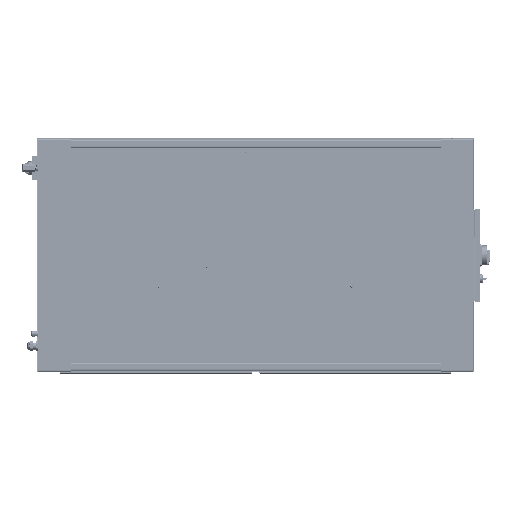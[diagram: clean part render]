
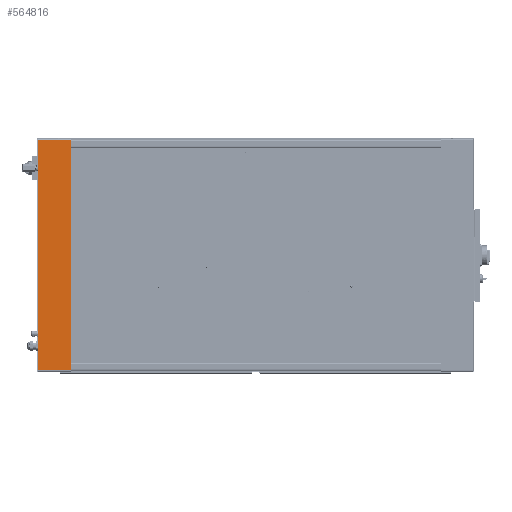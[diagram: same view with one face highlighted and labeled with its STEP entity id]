
A CAD part, front view. The second image highlights one B-rep face of the part: STEP entity #564816.
In plain terms, the highlighted planar face has unit normal (0, -1, 0).
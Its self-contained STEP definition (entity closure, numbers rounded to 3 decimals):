
#28403 = ORIENTED_EDGE ( 'NONE', *, *, #97085, .F. ) ;
#34734 = LINE ( 'NONE', #428036, #114013 ) ;
#58831 = VECTOR ( 'NONE', #556616, 1000. ) ;
#97085 = EDGE_CURVE ( 'NONE', #598588, #506891, #34734, .T. ) ;
#114013 = VECTOR ( 'NONE', #328813, 1000. ) ;
#121065 = DIRECTION ( 'NONE',  ( 0., 1., 0. ) ) ;
#148184 = DIRECTION ( 'NONE',  ( 0., 0., -1. ) ) ;
#149380 = VERTEX_POINT ( 'NONE', #501025 ) ;
#150172 = DIRECTION ( 'NONE',  ( 1., 0., 0. ) ) ;
#153345 = CARTESIAN_POINT ( 'NONE',  ( 377., 0., -52. ) ) ;
#166478 = CARTESIAN_POINT ( 'NONE',  ( 373., 0., 52. ) ) ;
#196136 = LINE ( 'NONE', #490360, #544636 ) ;
#203392 = EDGE_LOOP ( 'NONE', ( #357637, #490342, #264929, #28403 ) ) ;
#207169 = VECTOR ( 'NONE', #150172, 1000. ) ;
#264929 = ORIENTED_EDGE ( 'NONE', *, *, #476241, .F. ) ;
#316092 = DIRECTION ( 'NONE',  ( 0., 0., 1. ) ) ;
#322370 = CARTESIAN_POINT ( 'NONE',  ( 373., 0., 52. ) ) ;
#328813 = DIRECTION ( 'NONE',  ( 1., 0., 0. ) ) ;
#356295 = EDGE_CURVE ( 'NONE', #598588, #534342, #196136, .T. ) ;
#357637 = ORIENTED_EDGE ( 'NONE', *, *, #356295, .T. ) ;
#364087 = PLANE ( 'NONE',  #538456 ) ;
#402950 = EDGE_CURVE ( 'NONE', #534342, #149380, #588286, .T. ) ;
#415877 = LINE ( 'NONE', #166478, #58831 ) ;
#428036 = CARTESIAN_POINT ( 'NONE',  ( 377., 0., 52. ) ) ;
#476241 = EDGE_CURVE ( 'NONE', #506891, #149380, #415877, .T. ) ;
#488000 = CARTESIAN_POINT ( 'NONE',  ( -373., 0., 52. ) ) ;
#490342 = ORIENTED_EDGE ( 'NONE', *, *, #402950, .T. ) ;
#490360 = CARTESIAN_POINT ( 'NONE',  ( -373., 0., 52. ) ) ;
#498875 = CARTESIAN_POINT ( 'NONE',  ( -373., 0., -52. ) ) ;
#501025 = CARTESIAN_POINT ( 'NONE',  ( 373., 0., -52. ) ) ;
#506891 = VERTEX_POINT ( 'NONE', #322370 ) ;
#534342 = VERTEX_POINT ( 'NONE', #498875 ) ;
#538456 = AXIS2_PLACEMENT_3D ( 'NONE', #559153, #121065, #316092 ) ;
#544636 = VECTOR ( 'NONE', #148184, 1000. ) ;
#556014 = FACE_OUTER_BOUND ( 'NONE', #203392, .T. ) ;
#556616 = DIRECTION ( 'NONE',  ( 0., 0., -1. ) ) ;
#559153 = CARTESIAN_POINT ( 'NONE',  ( 377., 0., 52. ) ) ;
#564816 = ADVANCED_FACE ( 'NONE', ( #556014 ), #364087, .F. ) ;
#588286 = LINE ( 'NONE', #153345, #207169 ) ;
#598588 = VERTEX_POINT ( 'NONE', #488000 ) ;
